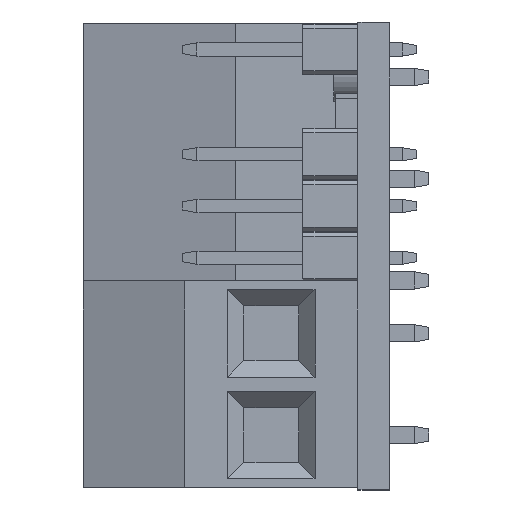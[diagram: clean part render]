
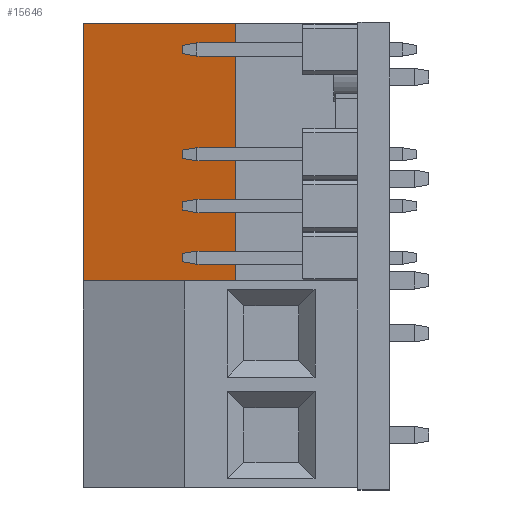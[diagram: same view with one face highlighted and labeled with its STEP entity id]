
A CAD part, left-side view. The second image highlights one B-rep face of the part: STEP entity #15646.
In plain terms, the highlighted planar face has unit normal (-0.969, 0.246, 0).
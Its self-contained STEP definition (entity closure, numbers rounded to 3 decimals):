
#800 = VECTOR ( 'NONE', #6132, 1000. ) ;
#6132 = DIRECTION ( 'NONE',  ( -0.246, -0.969, 0. ) ) ;
#7123 = CARTESIAN_POINT ( 'NONE',  ( 19.075, 6.785, -3.825 ) ) ;
#7951 = EDGE_CURVE ( 'NONE', #43872, #18242, #15006, .T. ) ;
#8619 = CARTESIAN_POINT ( 'NONE',  ( 19.075, 6.785, 11.5 ) ) ;
#9591 = CARTESIAN_POINT ( 'NONE',  ( 20.975, 14.285, 11.5 ) ) ;
#13765 = CARTESIAN_POINT ( 'NONE',  ( 19.075, 6.785, 11.425 ) ) ;
#15006 = LINE ( 'NONE', #45501, #800 ) ;
#15646 = ADVANCED_FACE ( 'NONE', ( #32260 ), #27943, .F. ) ;
#15696 = CARTESIAN_POINT ( 'NONE',  ( 20.975, 14.285, -3.825 ) ) ;
#17036 = VERTEX_POINT ( 'NONE', #7123 ) ;
#18242 = VERTEX_POINT ( 'NONE', #13765 ) ;
#18772 = DIRECTION ( 'NONE',  ( 0.969, -0.246, 0. ) ) ;
#18950 = EDGE_LOOP ( 'NONE', ( #20175, #26239, #40570, #47153 ) ) ;
#19540 = CARTESIAN_POINT ( 'NONE',  ( 20.975, 14.285, 11.5 ) ) ;
#20175 = ORIENTED_EDGE ( 'NONE', *, *, #52780, .T. ) ;
#22973 = DIRECTION ( 'NONE',  ( 0., 0., -1. ) ) ;
#26239 = ORIENTED_EDGE ( 'NONE', *, *, #39711, .F. ) ;
#27943 = PLANE ( 'NONE',  #40006 ) ;
#27962 = CARTESIAN_POINT ( 'NONE',  ( 21.4, 15.963, -3.825 ) ) ;
#28754 = VECTOR ( 'NONE', #50375, 1000. ) ;
#30572 = EDGE_CURVE ( 'NONE', #18242, #17036, #52554, .T. ) ;
#32260 = FACE_OUTER_BOUND ( 'NONE', #18950, .T. ) ;
#36268 = CARTESIAN_POINT ( 'NONE',  ( 20.975, 14.285, 11.425 ) ) ;
#39123 = DIRECTION ( 'NONE',  ( 0., 0., -1. ) ) ;
#39711 = EDGE_CURVE ( 'NONE', #17036, #42094, #54396, .T. ) ;
#40006 = AXIS2_PLACEMENT_3D ( 'NONE', #9591, #18772, #40346 ) ;
#40346 = DIRECTION ( 'NONE',  ( 0.246, 0.969, 0. ) ) ;
#40570 = ORIENTED_EDGE ( 'NONE', *, *, #30572, .F. ) ;
#42094 = VERTEX_POINT ( 'NONE', #15696 ) ;
#43872 = VERTEX_POINT ( 'NONE', #36268 ) ;
#45501 = CARTESIAN_POINT ( 'NONE',  ( 20.86, 13.833, 11.425 ) ) ;
#47153 = ORIENTED_EDGE ( 'NONE', *, *, #7951, .F. ) ;
#48126 = VECTOR ( 'NONE', #22973, 1000. ) ;
#49708 = LINE ( 'NONE', #19540, #48126 ) ;
#50375 = DIRECTION ( 'NONE',  ( 0.246, 0.969, 0. ) ) ;
#52554 = LINE ( 'NONE', #8619, #55180 ) ;
#52780 = EDGE_CURVE ( 'NONE', #43872, #42094, #49708, .T. ) ;
#54396 = LINE ( 'NONE', #27962, #28754 ) ;
#55180 = VECTOR ( 'NONE', #39123, 1000. ) ;
